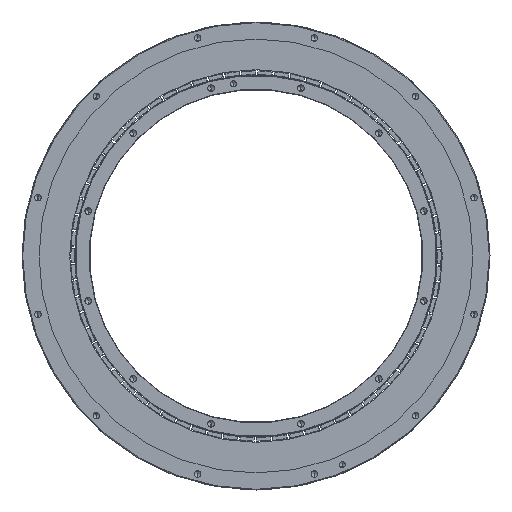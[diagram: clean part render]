
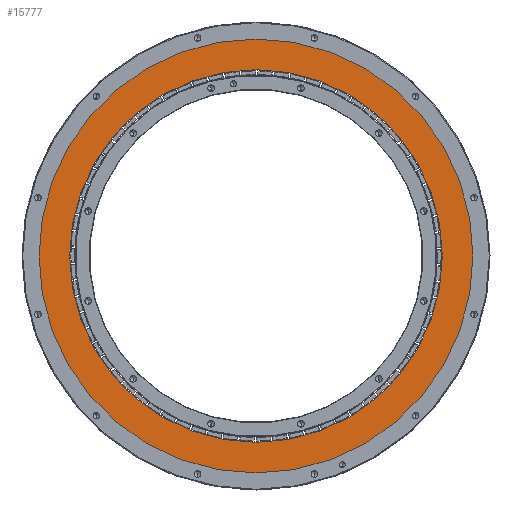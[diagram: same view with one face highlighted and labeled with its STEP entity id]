
A CAD part, front view. The second image highlights one B-rep face of the part: STEP entity #15777.
In plain terms, the highlighted planar face has unit normal (0, -1, 0).
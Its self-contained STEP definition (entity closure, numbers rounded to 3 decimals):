
#1065 = CARTESIAN_POINT ( 'NONE',  ( 0., -64., 0. ) ) ;
#1100 = AXIS2_PLACEMENT_3D ( 'NONE', #20591, #32059, #4656 ) ;
#1224 = EDGE_CURVE ( 'NONE', #22659, #23092, #6470, .T. ) ;
#1756 = VERTEX_POINT ( 'NONE', #34319 ) ;
#2059 = AXIS2_PLACEMENT_3D ( 'NONE', #1065, #9055, #3724 ) ;
#3358 = CIRCLE ( 'NONE', #23120, 224.905 ) ;
#3724 = DIRECTION ( 'NONE',  ( 0., 0., -1. ) ) ;
#3786 = CIRCLE ( 'NONE', #26936, 193.1 ) ;
#4656 = DIRECTION ( 'NONE',  ( 0., 0., -1. ) ) ;
#5172 = CARTESIAN_POINT ( 'NONE',  ( 0., -64., 193.1 ) ) ;
#6470 = CIRCLE ( 'NONE', #33025, 193.1 ) ;
#9055 = DIRECTION ( 'NONE',  ( 0., -1., 0. ) ) ;
#10977 = ORIENTED_EDGE ( 'NONE', *, *, #28638, .T. ) ;
#13756 = CARTESIAN_POINT ( 'NONE',  ( 0., -64., 0. ) ) ;
#14737 = CARTESIAN_POINT ( 'NONE',  ( 0., -64., 0. ) ) ;
#14851 = CARTESIAN_POINT ( 'NONE',  ( 0., -64., 0. ) ) ;
#15777 = ADVANCED_FACE ( 'NONE', ( #30425, #17370 ), #27946, .T. ) ;
#15787 = ORIENTED_EDGE ( 'NONE', *, *, #1224, .F. ) ;
#17370 = FACE_OUTER_BOUND ( 'NONE', #20276, .T. ) ;
#19042 = DIRECTION ( 'NONE',  ( 0., 0., -1. ) ) ;
#19553 = DIRECTION ( 'NONE',  ( 0., -1., 0. ) ) ;
#20276 = EDGE_LOOP ( 'NONE', ( #30432, #10977 ) ) ;
#20591 = CARTESIAN_POINT ( 'NONE',  ( 0., -64., 0. ) ) ;
#22049 = VERTEX_POINT ( 'NONE', #30604 ) ;
#22659 = VERTEX_POINT ( 'NONE', #5172 ) ;
#23092 = VERTEX_POINT ( 'NONE', #27231 ) ;
#23120 = AXIS2_PLACEMENT_3D ( 'NONE', #14851, #33196, #25032 ) ;
#23685 = CIRCLE ( 'NONE', #1100, 224.905 ) ;
#25032 = DIRECTION ( 'NONE',  ( 0., 0., -1. ) ) ;
#25950 = DIRECTION ( 'NONE',  ( 0., -1., 0. ) ) ;
#26664 = EDGE_CURVE ( 'NONE', #23092, #22659, #3786, .T. ) ;
#26936 = AXIS2_PLACEMENT_3D ( 'NONE', #14737, #25950, #31083 ) ;
#27231 = CARTESIAN_POINT ( 'NONE',  ( 0., -64., -193.1 ) ) ;
#27946 = PLANE ( 'NONE',  #2059 ) ;
#28002 = EDGE_CURVE ( 'NONE', #22049, #1756, #23685, .T. ) ;
#28638 = EDGE_CURVE ( 'NONE', #1756, #22049, #3358, .T. ) ;
#28645 = ORIENTED_EDGE ( 'NONE', *, *, #26664, .F. ) ;
#29005 = EDGE_LOOP ( 'NONE', ( #28645, #15787 ) ) ;
#30425 = FACE_BOUND ( 'NONE', #29005, .T. ) ;
#30432 = ORIENTED_EDGE ( 'NONE', *, *, #28002, .T. ) ;
#30604 = CARTESIAN_POINT ( 'NONE',  ( 0., -64., -224.905 ) ) ;
#31083 = DIRECTION ( 'NONE',  ( 0., 0., -1. ) ) ;
#32059 = DIRECTION ( 'NONE',  ( 0., -1., 0. ) ) ;
#33025 = AXIS2_PLACEMENT_3D ( 'NONE', #13756, #19553, #19042 ) ;
#33196 = DIRECTION ( 'NONE',  ( 0., -1., 0. ) ) ;
#34319 = CARTESIAN_POINT ( 'NONE',  ( 0., -64., 224.905 ) ) ;
